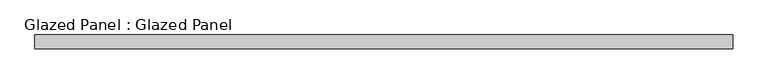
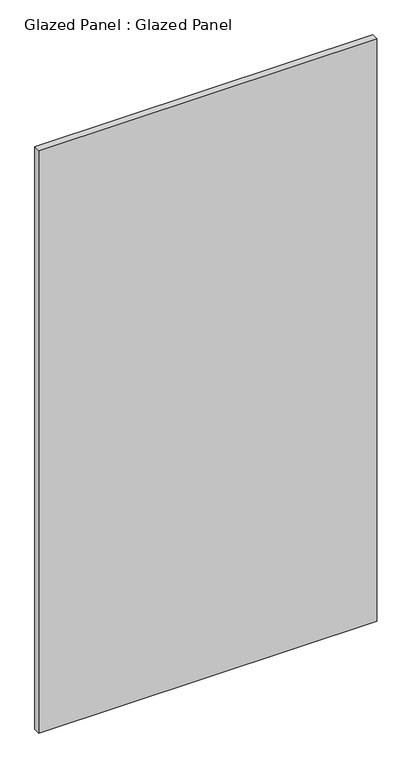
"""IFC4 building model written with IfcOpenShell, lengths in millimetres: plate geometry, Glazed Panel : Glazed Panel."""

from ifc_helpers import new_model, si_unit, origin, origin_with_axes, place, context, project, spatial, polyline, outline, extrude, source, transform, mapped, element, save


def glazed_panel_glazed_panel_54592845(model_context):
    return source(origin(), model_context, "Body", "SweptSolid", [
        extrude(outline(polyline([(642.9731911, 38.1), (-642.9731911, 38.1), (-642.9731911, 63.5), (642.9731911, 63.5), (642.9731911, 38.1)])), origin_with_axes(), (0.0, 0.0, 1.0), 2343.15),
    ])


if __name__ == "__main__":
    model = new_model("IFC4")
    model_context = context("Model", 3, world=origin())
    ifc_project = project(units=[si_unit("LENGTHUNIT", "METRE", prefix="MILLI")], contexts=[model_context])
    site = spatial("IfcSite", under=ifc_project)
    building = spatial("IfcBuilding", under=site)
    placement = place(None, origin())
    glazed_panel_glazed_panel_shape = glazed_panel_glazed_panel_54592845(model_context)
    element("IfcPlate", 1, ObjectType="Glazed Panel : Glazed Panel", at=placement, inside=building, context=model_context, shape_type="MappedRepresentation", body=[
        mapped(glazed_panel_glazed_panel_shape, transform((0.0, 0.0, 0.0), x_axis=(1.0, 0.0, 0.0), y_axis=(0.0, 1.0, 0.0), z_axis=(0.0, 0.0, 1.0))),
    ])
    save(model, "model.ifc")
